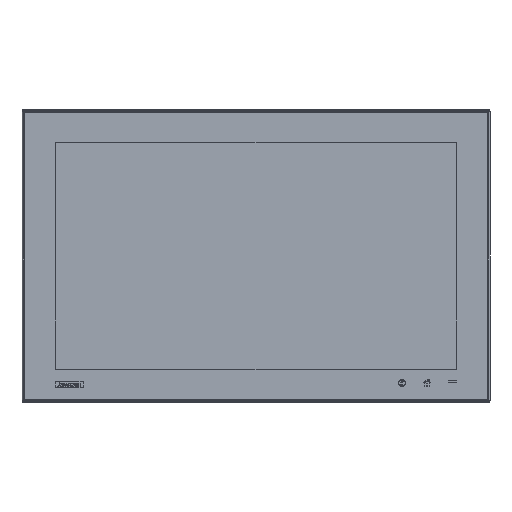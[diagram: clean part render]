
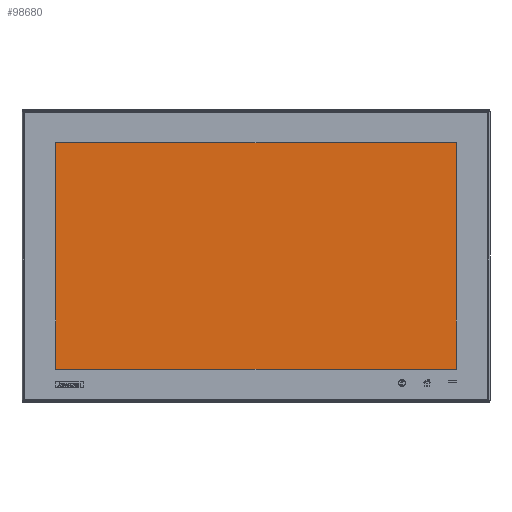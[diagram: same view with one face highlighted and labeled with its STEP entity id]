
A CAD part, top view. The second image highlights one B-rep face of the part: STEP entity #98680.
In plain terms, the highlighted planar face has unit normal (0, 0, 1).
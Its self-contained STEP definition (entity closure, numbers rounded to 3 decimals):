
#998 = FACE_OUTER_BOUND ( 'NONE', #143307, .T. ) ;
#42539 = EDGE_CURVE ( 'NONE', #226983, #250084, #109218, .T. ) ;
#45596 = DIRECTION ( 'NONE',  ( 0., 0., 1. ) ) ;
#57893 = CARTESIAN_POINT ( 'NONE',  ( 239.1, 134.85, 7.29 ) ) ;
#58304 = CARTESIAN_POINT ( 'NONE',  ( -239.1, -134.85, 7.29 ) ) ;
#62675 = VECTOR ( 'NONE', #107162, 1000. ) ;
#69506 = CARTESIAN_POINT ( 'NONE',  ( 0., 0., 7.29 ) ) ;
#73924 = VECTOR ( 'NONE', #277932, 1000. ) ;
#76002 = CARTESIAN_POINT ( 'NONE',  ( -239.1, 134.85, 7.29 ) ) ;
#76453 = CARTESIAN_POINT ( 'NONE',  ( -239.1, 134.85, 7.29 ) ) ;
#79153 = LINE ( 'NONE', #76002, #233444 ) ;
#82566 = LINE ( 'NONE', #249734, #256846 ) ;
#82953 = VERTEX_POINT ( 'NONE', #57893 ) ;
#94973 = DIRECTION ( 'NONE',  ( 1., 0., 0. ) ) ;
#98680 = ADVANCED_FACE ( 'NONE', ( #998 ), #215946, .T. ) ;
#107162 = DIRECTION ( 'NONE',  ( 0., -1., 0. ) ) ;
#109218 = LINE ( 'NONE', #58304, #73924 ) ;
#132604 = LINE ( 'NONE', #302916, #62675 ) ;
#143307 = EDGE_LOOP ( 'NONE', ( #248451, #246612, #297348, #281638 ) ) ;
#167705 = VERTEX_POINT ( 'NONE', #76453 ) ;
#174711 = DIRECTION ( 'NONE',  ( -1., 0., 0. ) ) ;
#204000 = EDGE_CURVE ( 'NONE', #250084, #82953, #82566, .T. ) ;
#205200 = CARTESIAN_POINT ( 'NONE',  ( -239.1, -134.85, 7.29 ) ) ;
#207034 = CARTESIAN_POINT ( 'NONE',  ( 239.1, -134.85, 7.29 ) ) ;
#215946 = PLANE ( 'NONE',  #276468 ) ;
#226983 = VERTEX_POINT ( 'NONE', #205200 ) ;
#233444 = VECTOR ( 'NONE', #174711, 1000. ) ;
#246612 = ORIENTED_EDGE ( 'NONE', *, *, #42539, .T. ) ;
#248451 = ORIENTED_EDGE ( 'NONE', *, *, #286172, .T. ) ;
#249734 = CARTESIAN_POINT ( 'NONE',  ( 239.1, 134.85, 7.29 ) ) ;
#250084 = VERTEX_POINT ( 'NONE', #207034 ) ;
#256846 = VECTOR ( 'NONE', #275188, 1000. ) ;
#275188 = DIRECTION ( 'NONE',  ( 0., 1., 0. ) ) ;
#276468 = AXIS2_PLACEMENT_3D ( 'NONE', #69506, #45596, #94973 ) ;
#277932 = DIRECTION ( 'NONE',  ( 1., 0., 0. ) ) ;
#281638 = ORIENTED_EDGE ( 'NONE', *, *, #305814, .T. ) ;
#286172 = EDGE_CURVE ( 'NONE', #167705, #226983, #132604, .T. ) ;
#297348 = ORIENTED_EDGE ( 'NONE', *, *, #204000, .T. ) ;
#302916 = CARTESIAN_POINT ( 'NONE',  ( -239.1, 134.85, 7.29 ) ) ;
#305814 = EDGE_CURVE ( 'NONE', #82953, #167705, #79153, .T. ) ;
